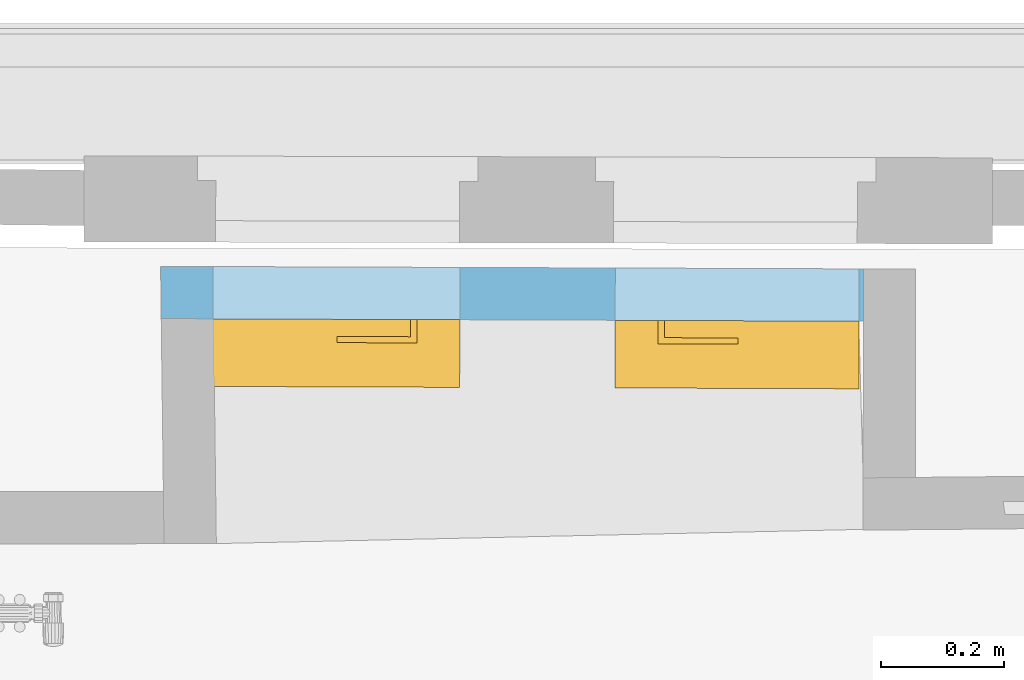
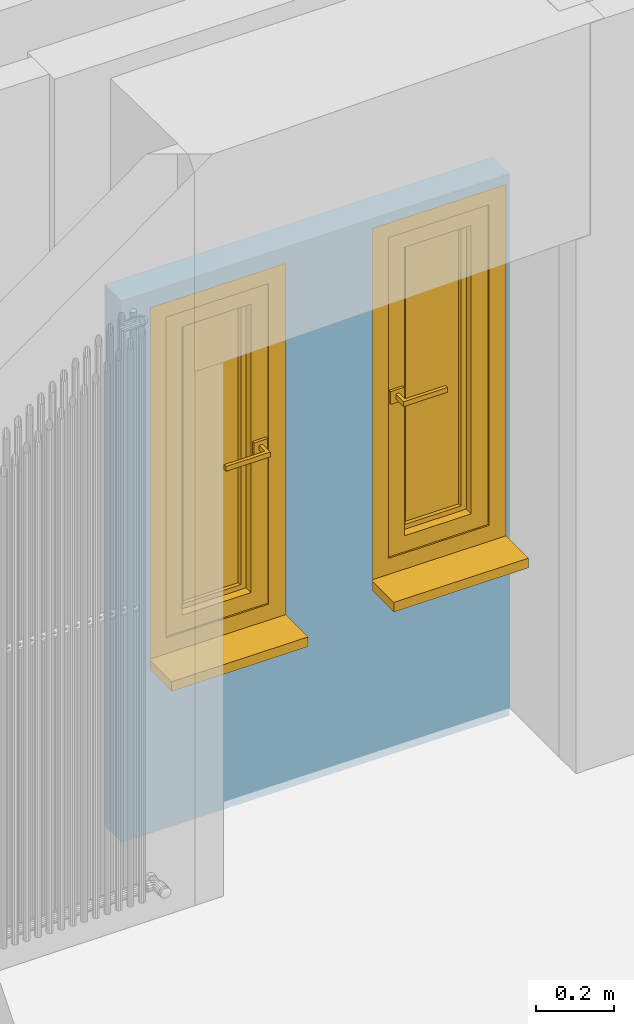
# One storey, part 59 of 72: 2 windows, 2 openings, plus 1 element that does not belong to this part.
"""IFC2X3 building model written with IfcOpenShell, lengths in centimetres."""

import ifcopenshell
import ifcopenshell.guid

model = None  # the IFC model being written
_history = None  # IfcOwnerHistory: only IFC2X3 demands one
_inside = {}  # id of a spatial element -> (the spatial element, [elements in it])
_under = {}  # id of a project, library or spatial element -> (it, [spatial elements below it])
_declared = {}  # id of a project -> (the project, [libraries it declares])
_typed = {}  # id of a type object -> (the type object, [elements of that type])
_made_of = {}  # id of a material, layer set ... -> (it, [elements and type objects made of it])


def new_model(schema):
    """Start an empty IFC model of exactly this schema.

    Asked for "IFC4X3", IfcOpenShell would pick the latest addendum, in which some entities
    have other attributes; the version numbers below select the first issue.
    IFC2X3 requires an IfcOwnerHistory on every rooted entity: one is made here for all.
    """
    global model, _history
    if schema == "IFC4X3":
        model = ifcopenshell.file(schema_version=(4, 3, 0, 0))
    else:
        model = ifcopenshell.file(schema=schema)
    _inside.clear()
    _under.clear()
    _declared.clear()
    _typed.clear()
    _made_of.clear()
    _history = None
    if model.schema == "IFC2X3":
        org = make("IfcOrganization", Name="unknown")
        user = make(
            "IfcPersonAndOrganization",
            ThePerson=make("IfcPerson", FamilyName="unknown"),
            TheOrganization=org,
        )
        app = make(
            "IfcApplication",
            ApplicationDeveloper=org,
            Version="unknown",
            ApplicationFullName="unknown",
            ApplicationIdentifier="unknown",
        )
        _history = make(
            "IfcOwnerHistory",
            OwningUser=user,
            OwningApplication=app,
            ChangeAction="ADDED",
            CreationDate=0,
        )
    return model


def make(cls, **values):
    """One entity of the class cls with the attributes given. An attribute that is None is left unset."""
    return model.create_entity(
        cls, **{name: value for name, value in values.items() if value is not None}
    )


def entity(cls, *values):
    """Any entity or typed value of the class cls, its attributes in the order of the schema. None: left unset."""
    e = model.create_entity(cls)
    for i, value in enumerate(values):
        if value is not None:
            e[i] = value
    return e


def rooted(cls, **values):
    """An entity with a GlobalId (a new one), such as an element, a storey or a relation."""
    return make(cls, GlobalId=ifcopenshell.guid.new(), OwnerHistory=_history, **values)


def si_unit(unit_type, name, prefix=None):
    """IfcSIUnit, for example si_unit("LENGTHUNIT", "METRE", prefix="MILLI")."""
    return make("IfcSIUnit", UnitType=unit_type, Prefix=prefix, Name=name)


def converted_unit(unit_type, name, factor, base, dimensions=None, offset=None):
    """IfcConversionBasedUnit, such as the inch: factor (a typed value) times the base unit."""
    return make(
        "IfcConversionBasedUnit"
        if offset is None
        else "IfcConversionBasedUnitWithOffset",
        ConversionOffset=offset,
        Dimensions=None
        if dimensions is None
        else entity("IfcDimensionalExponents", *dimensions),
        UnitType=unit_type,
        Name=name,
        ConversionFactor=make(
            "IfcMeasureWithUnit", ValueComponent=factor, UnitComponent=base
        ),
    )


def assignment(units):
    """IfcUnitAssignment: the units of a project."""
    return None if units is None else make("IfcUnitAssignment", Units=units)


def point(xyz):
    """IfcCartesianPoint."""
    return None if xyz is None else make("IfcCartesianPoint", Coordinates=xyz)


def direction(xyz):
    """IfcDirection."""
    return None if xyz is None else make("IfcDirection", DirectionRatios=xyz)


def frame(location, z_axis=None, x_axis=None):
    """IfcAxis2Placement3D, a coordinate frame: its origin and axes. An axis left out is left unset."""
    return make(
        "IfcAxis2Placement3D",
        Location=point(location),
        Axis=direction(z_axis),
        RefDirection=direction(x_axis),
    )


def origin():
    """The frame at (0, 0, 0) with its axes left unset."""
    return frame((0.0, 0.0, 0.0))


def origin_with_axes():
    """The frame at (0, 0, 0) with the z axis (0, 0, 1) and the x axis (1, 0, 0) written out."""
    return frame((0.0, 0.0, 0.0), z_axis=(0.0, 0.0, 1.0), x_axis=(1.0, 0.0, 0.0))


def place(relative_to, where):
    """IfcLocalPlacement: puts the frame where relative to a parent placement (None: the world)."""
    return make(
        "IfcLocalPlacement", PlacementRelTo=relative_to, RelativePlacement=where
    )


def context(
    kind, dimensions, precision=None, world=None, true_north=None, identifier=None
):
    """IfcGeometricRepresentationContext, for example the 3D "Model" context."""
    return make(
        "IfcGeometricRepresentationContext",
        ContextIdentifier=identifier,
        ContextType=kind,
        CoordinateSpaceDimension=dimensions,
        Precision=precision,
        WorldCoordinateSystem=world,
        TrueNorth=true_north,
    )


def subcontext(parent, identifier, kind, view, scale=None):
    """IfcGeometricRepresentationSubContext, for example "Body" below "Model"."""
    return make(
        "IfcGeometricRepresentationSubContext",
        ContextIdentifier=identifier,
        ContextType=kind,
        ParentContext=parent,
        TargetScale=scale,
        TargetView=view,
    )


def project(units=None, contexts=None):
    """IfcProject with its units and contexts."""
    return rooted(
        "IfcProject",
        Name="project",
        RepresentationContexts=contexts,
        UnitsInContext=assignment(units),
    )


def spatial(cls, under=None, at=None, **own):
    """A site, building, storey or space (cls), placed at a placement, below another one or the project."""
    s = rooted(cls, ObjectPlacement=at, **own)
    if under is not None:
        _under.setdefault(under.id(), (under, []))[1].append(s)
    return s


def polyline(points):
    """IfcPolyline through the points."""
    return make("IfcPolyline", Points=[point(p) for p in points])


def outline(outer, holes=None, kind="AREA"):
    """IfcArbitraryClosedProfileDef: a profile drawn as a closed curve; with holes, ...WithVoids."""
    if holes is None:
        return make("IfcArbitraryClosedProfileDef", ProfileType=kind, OuterCurve=outer)
    return make(
        "IfcArbitraryProfileDefWithVoids",
        ProfileType=kind,
        OuterCurve=outer,
        InnerCurves=holes,
    )


def extrude(swept, where, along, depth):
    """IfcExtrudedAreaSolid: the profile swept, set in the frame where, extruded along a direction by depth."""
    return make(
        "IfcExtrudedAreaSolid",
        SweptArea=swept,
        Position=where,
        ExtrudedDirection=direction(along),
        Depth=depth,
    )


def faces_of(points, faces, orient=None, outer=None):
    """IfcFace entities. A face is a list of loops; a loop is a list of indices into points, from 0.

    orient and outer hold one flag for each loop. By default every Orientation is true, the
    first loop of a face is its IfcFaceOuterBound and the others are IfcFaceBound.
    """
    made = []
    for i, loops in enumerate(faces):
        bounds = []
        for j, loop in enumerate(loops):
            is_outer = j == 0 if outer is None else outer[i][j]
            bounds.append(
                make(
                    "IfcFaceOuterBound" if is_outer else "IfcFaceBound",
                    Bound=make("IfcPolyLoop", Polygon=[points[k] for k in loop]),
                    Orientation=True if orient is None else orient[i][j],
                )
            )
        made.append(make("IfcFace", Bounds=bounds))
    return made


def faceted_brep(points, faces, orient=None, outer=None, voids=None):
    """IfcFacetedBrep: a solid bounded by flat faces; with voids (closed shells), ...WithVoids."""
    shared = [point(p) for p in points]
    hull = make("IfcClosedShell", CfsFaces=faces_of(shared, faces, orient, outer))
    if voids is None:
        return make("IfcFacetedBrep", Outer=hull)
    return make(
        "IfcFacetedBrepWithVoids",
        Outer=hull,
        Voids=[
            make(cls, CfsFaces=faces_of(shared, fs, o, b)) for cls, fs, o, b in voids
        ],
    )


def shape(context_of_items, identifier, shape_type, items):
    """IfcShapeRepresentation: the items that make up one representation, for example the "Body"."""
    return make(
        "IfcShapeRepresentation",
        ContextOfItems=context_of_items,
        RepresentationIdentifier=identifier,
        RepresentationType=shape_type,
        Items=items,
    )


def material(Name=None, Category=None):
    """IfcMaterial."""
    return make("IfcMaterial", Name=Name, Category=Category)


def material_list(materials):
    """IfcMaterialList."""
    return make("IfcMaterialList", Materials=materials)


def layer(
    of_material, thickness, ventilated=None, Name=None, Category=None, Priority=None
):
    """IfcMaterialLayer: one layer of a wall or slab, of a material (None: an air gap)."""
    return make(
        "IfcMaterialLayer",
        Material=of_material,
        LayerThickness=thickness,
        IsVentilated=ventilated,
        Name=Name,
        Category=Category,
        Priority=Priority,
    )


def layer_set(layers, Name=None):
    """IfcMaterialLayerSet."""
    return make("IfcMaterialLayerSet", MaterialLayers=layers, LayerSetName=Name)


def layer_usage(for_layer_set, set_direction, sense, offset, extent=None):
    """IfcMaterialLayerSetUsage: how a layer set lies in its element."""
    return make(
        "IfcMaterialLayerSetUsage",
        ForLayerSet=for_layer_set,
        LayerSetDirection=set_direction,
        DirectionSense=sense,
        OffsetFromReferenceLine=offset,
        ReferenceExtent=extent,
    )


def made_of(thing, what):
    """Note that an element or type object is made of a material, layer set ...; save() writes the relation."""
    if what is not None:
        _made_of.setdefault(what.id(), (what, []))[1].append(thing)
    return thing


def type_object(cls, material=None, **own):
    """A type object (cls), such as IfcWallType, which elements share."""
    return made_of(rooted(cls, **own), material)


def element(
    cls,
    number,
    at=None,
    inside=None,
    cuts=None,
    type_object=None,
    material=None,
    context=None,
    identifier="Body",
    shape_type=None,
    held_by="IfcProductDefinitionShape",
    body=None,
    shapes=None,
    **own,
):
    """One element of the class cls, such as IfcWall. Its Tag is "e" and its number.

    at: its placement. inside: the storey or other place that contains it. cuts: it is an
    opening in that element (IfcRelVoidsElement). A single representation is given by context,
    identifier, shape_type and body (its items); several are given by shapes. held_by: the class
    of the entity that holds the representations. save() writes the other relations.
    """
    e = rooted(cls, Tag="e%d" % number, ObjectPlacement=at, **own)
    if body is not None:
        shapes = [shape(context, identifier, shape_type, body)]
    if shapes is not None:
        e.Representation = make(held_by, Representations=shapes)
    if inside is not None:
        _inside.setdefault(inside.id(), (inside, []))[1].append(e)
    if cuts is not None:
        rooted(
            "IfcRelVoidsElement", RelatingBuildingElement=cuts, RelatedOpeningElement=e
        )
    if type_object is not None:
        _typed.setdefault(type_object.id(), (type_object, []))[1].append(e)
    return made_of(e, material)


def fill(opening, filler):
    """IfcRelFillsElement: the door or window that sits in an opening."""
    return rooted(
        "IfcRelFillsElement",
        RelatingOpeningElement=opening,
        RelatedBuildingElement=filler,
    )


def aggregate(whole, parts):
    """IfcRelAggregates: a whole, such as a stair, and the parts it consists of."""
    return rooted("IfcRelAggregates", RelatingObject=whole, RelatedObjects=parts)


def save(model, path):
    """Write the relations noted so far, then the file.

    IfcRelAggregates (storeys below a building ...), IfcRelContainedInSpatialStructure (elements
    in a storey), IfcRelDefinesByType, IfcRelAssociatesMaterial and IfcRelDeclares: one each for
    every whole, place, type object, material and project.
    """
    for whole, parts in _under.values():
        aggregate(whole, parts)
    for where, things in _inside.values():
        rooted(
            "IfcRelContainedInSpatialStructure",
            RelatedElements=things,
            RelatingStructure=where,
        )
    for kind, things in _typed.values():
        rooted("IfcRelDefinesByType", RelatedObjects=things, RelatingType=kind)
    for what, things in _made_of.values():
        rooted("IfcRelAssociatesMaterial", RelatedObjects=things, RelatingMaterial=what)
    for by, libraries in _declared.values():
        rooted("IfcRelDeclares", RelatingContext=by, RelatedDefinitions=libraries)
    model.write(path)


model = new_model("IFC2X3")

# Units and contexts
model_context = context("Model", 3, precision=0.0001, world=origin(), true_north=direction((0.225632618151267, 0.974212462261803, 0.0)))
body_context = subcontext(model_context, "Body", "Model", "MODEL_VIEW")
footprint_context = subcontext(model_context, "FootPrint", "Model", "MODEL_VIEW")
profile_context = subcontext(model_context, "Profile", "Model", "MODEL_VIEW")
ifc_project = project(units=[si_unit("LENGTHUNIT", "METRE", prefix="CENTI"), si_unit("AREAUNIT", "SQUARE_METRE", prefix="CENTI"), si_unit("VOLUMEUNIT", "CUBIC_METRE", prefix="CENTI"), converted_unit("PLANEANGLEUNIT", "DEGREE", entity("IfcRatioMeasure", 0.0174532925), si_unit("PLANEANGLEUNIT", "RADIAN"), dimensions=[0, 0, 0, 0, 0, 0, 0])], contexts=[model_context])

# Site, building, storey
site_placement = place(None, origin_with_axes())
site = spatial("IfcSite", under=ifc_project, at=site_placement, Name="Default Site", CompositionType="ELEMENT")
building_placement = place(site_placement, origin_with_axes())
building = spatial("IfcBuilding", under=site, at=building_placement, Name="Default Building", CompositionType="ELEMENT")
storey_placement = place(building_placement, frame((0.0, 0.0, 853.910374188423), z_axis=(0.0, 0.0, 1.0), x_axis=(1.0, 0.0, 0.0)))
storey = spatial("IfcBuildingStorey", under=building, at=storey_placement, Name="Niveau 2", CompositionType="ELEMENT", Elevation=853.910374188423)

# Wall, openings, windows
ifc_material_1 = material(Name="<aucun>")
ifc_layer = layer(ifc_material_1, 8.5)
ifc_layer_set = layer_set([ifc_layer], Name="default")
ifc_layer_usage = layer_usage(ifc_layer_set, "AXIS2", "POSITIVE", -4.25)
wall_type = type_object("IfcWallType", Name="default 85", PredefinedType="NOTDEFINED", material=ifc_layer_set)
wall_placement = place(storey_placement, frame((-445.853192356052, 589.822000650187, 1.4210854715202e-12), z_axis=(0.0, 0.0, 1.0), x_axis=(-0.999993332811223, 0.0036516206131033, 0.0)))
wall = element("IfcWallStandardCase", 1, at=wall_placement, inside=storey, type_object=wall_type, material=ifc_layer_usage, Name="Enveloppe 166814", context=body_context, shape_type="SweptSolid", body=[
    extrude(outline(polyline([(119.723091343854, -4.2500000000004), (119.585544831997, 4.24999999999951), (5.44800041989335, 4.25000000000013), (5.46859012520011, -4.24999999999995), (119.723091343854, -4.2500000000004)])), frame((0.0, 0.0, -5.32907051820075e-13), z_axis=(0.0, 0.0, 1.0), x_axis=(1.0, 0.0, 0.0)), (0.0, 0.0, 1.0), 169.0),
])
opening_1_placement = place(wall_placement, frame((6.15067826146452, 1.13686837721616e-13, 55.9999999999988), z_axis=(0.0, 0.0, 1.0), x_axis=(1.0, -4.00504282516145e-15, 0.0)))
cartesian_point_1 = entity("IfcCartesianPoint", [0.0, 0.0, 110.0])
cartesian_point_2 = entity("IfcCartesianPoint", [39.6512926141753, 4.24999999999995])
opening_1 = element("IfcOpeningElement", 2, at=opening_1_placement, cuts=wall, Name="4294966436_11", ObjectType="Opening", shapes=[
    shape(body_context, "Body", "SweptSolid", [extrude(outline(polyline([(0.0, 110.0), (0.0, -2.99999999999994), (39.6512926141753, -2.99999999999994), (39.6512926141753, 110.0), (0.0, 110.0)])), frame((0.0, 14.25, 0.0), z_axis=(0.0, -1.0, 0.0), x_axis=(1.0, 0.0, 0.0)), (0.0, 0.0, 1.0), 28.5)]),
    shape(profile_context, "Profile", "GeometricCurveSet", [entity("IfcGeometricCurveSet", [entity("IfcPolyline", [cartesian_point_1, entity("IfcCartesianPoint", [0.0, 0.0, 0.0]), entity("IfcCartesianPoint", [39.6512926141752, -8.88178419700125e-14, 0.0]), entity("IfcCartesianPoint", [39.6512926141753, -8.88178419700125e-14, 110.0]), cartesian_point_1])])]),
    shape(footprint_context, "FootPrint", "GeometricCurveSet", [entity("IfcGeometricCurveSet", [entity("IfcPolyline", [cartesian_point_2, entity("IfcCartesianPoint", [0.0, 4.25000000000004]), entity("IfcCartesianPoint", [8.88178419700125e-14, -4.25000000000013]), entity("IfcCartesianPoint", [39.6512926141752, -4.25000000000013]), cartesian_point_2])])]),
])
opening_2_placement = place(wall_placement, frame((71.026558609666, -2.27373675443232e-13, 53.9999999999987), z_axis=(0.0, 0.0, 1.0), x_axis=(1.0, -4.00504282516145e-15, 0.0)))
cartesian_point_3 = entity("IfcCartesianPoint", [0.0, 0.0, 110.0])
cartesian_point_4 = entity("IfcCartesianPoint", [40.1803117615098, 4.25000000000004])
opening_2 = element("IfcOpeningElement", 3, at=opening_2_placement, cuts=wall, Name="4294966435_11", ObjectType="Opening", shapes=[
    shape(body_context, "Body", "SweptSolid", [extrude(outline(polyline([(-8.88178419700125e-14, 110.0), (-8.88178419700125e-14, -2.99999999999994), (40.1803117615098, -2.99999999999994), (40.1803117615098, 110.0), (-8.88178419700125e-14, 110.0)])), frame((0.0, 14.25, 0.0), z_axis=(0.0, -1.0, 0.0), x_axis=(1.0, 0.0, 0.0)), (0.0, 0.0, 1.0), 28.5)]),
    shape(profile_context, "Profile", "GeometricCurveSet", [entity("IfcGeometricCurveSet", [entity("IfcPolyline", [cartesian_point_3, entity("IfcCartesianPoint", [0.0, 0.0, 0.0]), entity("IfcCartesianPoint", [40.1803117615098, 8.88178419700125e-14, 0.0]), entity("IfcCartesianPoint", [40.1803117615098, 8.88178419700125e-14, 110.0]), cartesian_point_3])])]),
    shape(footprint_context, "FootPrint", "GeometricCurveSet", [entity("IfcGeometricCurveSet", [entity("IfcPolyline", [cartesian_point_4, entity("IfcCartesianPoint", [-8.88178419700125e-14, 4.25000000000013]), entity("IfcCartesianPoint", [0.0, -4.25000000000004]), entity("IfcCartesianPoint", [40.1803117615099, -4.25000000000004]), cartesian_point_4])])]),
])
ifc_material_2 = material(Name="Transparent")
ifc_material_3 = material(Name="Jaune 255-255-0")
ifc_material_4 = material(Name="Brèche oniciata")
ifc_material_5 = material(Name="Aluminium satiné")
ifc_material_list = material_list([ifc_material_2, ifc_material_3, ifc_material_4, ifc_material_5])
window_style = type_object("IfcWindowStyle", Name="FN[R] 1VB[1V]", ConstructionType="NOTDEFINED", OperationType="SINGLE_PANEL", ParameterTakesPrecedence=True, Sizeable=False, material=ifc_material_list)
window_1_placement = place(opening_1_placement, frame((-5.6843418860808e-14, -4.25000000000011, 0.0), z_axis=(0.0, 0.0, 1.0), x_axis=(1.0, 0.0, 0.0)))
window_1 = element("IfcWindow", 4, at=window_1_placement, inside=storey, type_object=window_style, material=ifc_material_list, Name="Fenêtre 167913", OverallHeight=110.0, OverallWidth=39.6512926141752, context=body_context, shape_type="Brep", body=[
    faceted_brep([(39.6512854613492, 8.50000158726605, 1.85728072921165e-05), (39.6513150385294, 19.4999930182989, 1.85728072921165e-05), (-9.51580165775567e-06, 19.5000168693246, 1.85728072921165e-05), (8.76453896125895e-06, 8.49997792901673, 1.85728072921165e-05), (5.31339896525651e-06, 1.27982766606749e-05, 1.85728072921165e-05), (39.6512821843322, -1.12268718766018e-05, 1.85728072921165e-05), (39.6512821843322, -1.12268718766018e-05, -2.99995472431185), (5.31339896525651e-06, 1.27982766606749e-05, -2.99995472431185), (8.76453896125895e-06, 8.49997792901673, -2.99995472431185), (-9.51580165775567e-06, 19.5000168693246, -2.99995472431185), (39.6513150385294, 19.4999930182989, -2.99995472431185), (39.6512854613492, 8.50000158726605, -2.99995472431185), (5.31339896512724e-06, -1.12266585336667e-05, 1.85728072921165e-05), (5.31339896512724e-06, -1.12266585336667e-05, -2.99995472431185), (5.31344469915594e-06, 8.49997792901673, 1.85728072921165e-05), (5.31344469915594e-06, 8.49997792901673, -2.99995472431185), (8.76459814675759e-06, 19.5000168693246, 1.85728072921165e-05), (8.76459814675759e-06, 19.5000168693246, -2.99995472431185), (39.6513150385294, 19.5000168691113, 1.85728072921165e-05), (39.6513150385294, 19.5000168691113, -2.99995472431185), (39.6513150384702, 8.50000158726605, 1.85728072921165e-05), (39.6513150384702, 8.50000158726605, -2.99995472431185), (39.6512854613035, -1.12268718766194e-05, 1.85728072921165e-05), (39.6512854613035, -1.12268718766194e-05, -2.99995472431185)], [[[0, 1, 2, 3, 4, 5]], [[6, 7, 8, 9, 10, 11]], [[5, 12, 13, 6]], [[4, 14, 15, 7]], [[3, 16, 17, 8]], [[2, 18, 19, 9]], [[1, 20, 21, 10]], [[0, 22, 23, 11]]]),
    faceted_brep([(4.99999972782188, 7.99999991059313, 104.999995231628), (4.99999972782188, 8.94070595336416e-08, 104.999995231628), (4.99999972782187, 8.94070595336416e-08, 5.00000007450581), (4.99999972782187, 7.99999991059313, 5.00000007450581), (2.58451038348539e-08, 8.94070595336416e-08, 110.000002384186), (2.58451038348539e-08, 8.94070595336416e-08, 1.77635683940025e-13), (4.99999972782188, 8.94070595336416e-08, 5.00000007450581), (2.58451038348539e-08, 7.99999991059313, 110.000002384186), (2.58450927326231e-08, 7.99999991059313, 1.77635683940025e-13), (2.58450927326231e-08, 8.94070595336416e-08, 1.77635683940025e-13), (4.99999972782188, 7.99999991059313, 5.00000007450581), (2.58451038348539e-08, 7.99999991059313, 1.77635683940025e-13), (34.6512928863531, 8.94070595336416e-08, 5.0000000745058), (34.6512928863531, 7.99999991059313, 5.0000000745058), (39.6512925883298, 8.94070553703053e-08, 1.77635683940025e-13), (34.6512928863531, 8.94070564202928e-08, 5.00000007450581), (39.6512925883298, 7.99999991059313, 1.77635683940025e-13), (39.6512925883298, 8.94070595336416e-08, 1.77635683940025e-13), (34.6512928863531, 7.99999991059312, 5.00000007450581), (39.6512925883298, 7.99999991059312, 1.77635683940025e-13), (34.6512928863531, 7.99999991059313, 5.00000007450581), (34.6512928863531, 8.94070595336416e-08, 5.00000007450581), (34.6512928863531, 8.94070595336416e-08, 104.999995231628), (34.6512928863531, 7.99999991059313, 104.999995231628), (39.6512925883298, 8.94070595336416e-08, 110.000002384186), (39.6512925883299, 7.99999991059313, 110.000002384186), (39.6512925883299, 8.94070595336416e-08, 110.000002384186), (39.6512925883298, 7.99999991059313, 110.000002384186), (39.6512925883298, 8.94070595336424e-08, 110.000002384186), (2.58451038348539e-08, 8.94070636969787e-08, 110.000002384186), (4.99999972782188, 8.94070626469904e-08, 104.999995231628)], [[[0, 1, 2, 3]], [[1, 4, 5, 6]], [[4, 7, 8, 9]], [[7, 0, 10, 11]], [[10, 6, 12, 13]], [[6, 5, 14, 15]], [[5, 11, 16, 17]], [[11, 10, 18, 19]], [[20, 21, 22, 23]], [[21, 17, 24, 22]], [[17, 16, 25, 26]], [[16, 20, 23, 27]], [[23, 22, 1, 0]], [[22, 28, 29, 30]], [[24, 27, 7, 4]], [[27, 23, 0, 7]]]),
    faceted_brep([(10.0000001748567, 7.50000001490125, 100.0), (10.0000001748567, 1.49999996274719, 100.0), (10.0000001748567, 1.49999996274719, 10.0000001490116), (10.0000001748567, 7.50000001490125, 10.0000001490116), (9.00000029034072, 0.500000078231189, 100.999999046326), (9.00000029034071, 0.500000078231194, 9.00000035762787), (9.00000038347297, 0.499999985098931, 100.999999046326), (4.99999972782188, 0.499999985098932, 104.999995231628), (4.99999972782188, 0.499999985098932, 5.00000007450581), (9.00000038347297, 0.499999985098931, 9.00000035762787), (4.99999972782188, 0.499999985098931, 104.999995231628), (4.99999972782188, 7.50000001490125, 104.999995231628), (4.99999972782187, 7.50000001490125, 5.00000007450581), (4.99999972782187, 0.499999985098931, 5.00000007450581), (4.99999972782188, 7.50000001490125, 5.00000007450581), (29.6512924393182, 1.49999996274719, 10.0000001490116), (29.6512924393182, 7.50000001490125, 10.0000001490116), (9.00000038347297, 0.500000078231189, 9.00000026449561), (30.651292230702, 0.500000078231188, 9.00000026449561), (34.6512928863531, 0.499999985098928, 5.00000007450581), (30.651292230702, 0.499999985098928, 9.00000035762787), (4.99999972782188, 0.499999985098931, 5.00000007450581), (34.6512928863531, 7.50000001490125, 5.00000007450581), (34.6512928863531, 0.499999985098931, 5.00000007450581), (29.6512924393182, 1.49999996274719, 100.0), (29.6512924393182, 7.50000001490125, 100.0), (30.6512923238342, 0.500000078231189, 9.00000035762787), (30.6512923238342, 0.500000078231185, 100.999999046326), (30.651292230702, 0.499999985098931, 9.00000035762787), (34.6512928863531, 0.499999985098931, 5.00000007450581), (34.6512928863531, 0.499999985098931, 104.999995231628), (30.651292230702, 0.499999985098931, 100.999999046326), (34.6512928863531, 7.50000001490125, 104.999995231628), (34.6512928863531, 0.499999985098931, 104.999995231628), (30.651292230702, 0.500000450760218, 100.999999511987), (9.00000038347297, 0.500000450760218, 100.999999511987), (4.99999972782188, 0.499999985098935, 104.999995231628), (9.00000038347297, 0.499999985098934, 100.999999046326), (29.6512924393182, 7.50000001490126, 100.0), (10.0000001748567, 7.50000001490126, 100.0), (4.99999972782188, 7.50000001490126, 104.999995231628)], [[[0, 1, 2, 3]], [[1, 4, 5, 2]], [[6, 7, 8, 9]], [[10, 11, 12, 13]], [[11, 0, 3, 14]], [[3, 2, 15, 16]], [[2, 17, 18, 15]], [[9, 8, 19, 20]], [[21, 14, 22, 23]], [[14, 3, 16, 22]], [[16, 15, 24, 25]], [[15, 26, 27, 24]], [[28, 29, 30, 31]], [[23, 22, 32, 33]], [[22, 16, 25, 32]], [[25, 24, 1, 0]], [[24, 34, 35, 1]], [[31, 30, 36, 37]], [[33, 32, 11, 10]], [[32, 38, 39, 40]]]),
    faceted_brep([(34.1512918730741, 7.50000001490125, 56.9999992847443), (30.1512927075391, 7.50000001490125, 56.9999992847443), (30.1512927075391, 7.50000001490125, 52.9999971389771), (34.1512918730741, 7.50000001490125, 52.9999971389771), (34.1512918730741, 8.30000014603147, 52.9999971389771), (30.1512927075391, 8.30000014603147, 52.9999971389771), (30.1512927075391, 8.30000014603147, 56.9999992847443), (34.1512918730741, 8.30000014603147, 56.9999992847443)], [[[0, 1, 2, 3]], [[4, 5, 6, 7]], [[3, 2, 5, 4]], [[2, 1, 6, 5]], [[1, 0, 7, 6]], [[0, 3, 4, 7]]]),
    faceted_brep([(32.6512933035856, 8.30000014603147, 55.7500004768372), (31.6512927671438, 8.30000014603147, 55.7500004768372), (31.6512927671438, 8.30000014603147, 54.2500019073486), (32.6512933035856, 8.30000014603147, 54.2500019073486), (32.6512933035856, 12.2999996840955, 54.2500019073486), (31.6512931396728, 11.2999995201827, 54.2500019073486), (31.6512931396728, 11.2999995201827, 55.7500004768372), (32.6512933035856, 12.2999996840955, 55.7500004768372), (31.6512927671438, 11.2999998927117, 54.2500019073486), (31.6512927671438, 11.2999998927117, 55.7500004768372)], [[[0, 1, 2, 3]], [[4, 5, 6, 7]], [[3, 2, 8, 4]], [[2, 1, 9, 8]], [[1, 0, 7, 9]], [[0, 3, 4, 7]]]),
    faceted_brep([(32.6512933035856, 12.2999996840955, 55.7500004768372), (31.6512931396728, 11.2999995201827, 55.7500004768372), (31.6512931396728, 11.2999995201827, 54.2500019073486), (32.6512933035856, 12.2999996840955, 54.2500019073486), (19.6512925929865, 12.2999996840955, 54.2500019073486), (19.6512925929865, 11.2999998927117, 54.2500019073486), (19.6512925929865, 11.2999998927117, 55.7500004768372), (19.6512925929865, 12.2999996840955, 55.7500004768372), (31.6512927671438, 11.2999998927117, 54.2500019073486), (31.6512927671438, 11.2999998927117, 55.7500004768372)], [[[0, 1, 2, 3]], [[4, 5, 6, 7]], [[3, 8, 5, 4]], [[8, 9, 6, 5]], [[9, 0, 7, 6]], [[0, 3, 4, 7]]]),
    faceted_brep([(11.5000002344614, 4.99999997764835, 98.5000014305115), (11.9999999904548, 4.50000022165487, 98.0000019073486), (11.9999999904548, 4.50000022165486, 11.9999997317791), (11.5000002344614, 4.99999997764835, 11.5000002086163), (11.9999997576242, 4.49999998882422, 98.0000019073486), (11.9999997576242, 3.50000001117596, 98.0000019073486), (11.9999997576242, 3.50000001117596, 11.9999997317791), (11.9999997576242, 4.49999998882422, 11.9999997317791), (11.5000000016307, 3.00000025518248, 98.5000014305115), (11.5000000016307, 3.00000025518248, 11.5000002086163), (11.9999997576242, 3.50000001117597, 11.9999997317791), (11.5000002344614, 3.00000002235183, 98.5000014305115), (10.0000001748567, 3.00000002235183, 100.0), (10.0000001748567, 3.00000002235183, 10.0000001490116), (11.5000002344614, 3.00000002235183, 11.5000002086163), (10.0000001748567, 4.99999997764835, 100.0), (10.0000001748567, 4.99999997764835, 10.0000001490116), (11.9999997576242, 4.50000022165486, 11.9999999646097), (27.6512928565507, 4.50000022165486, 11.9999999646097), (28.1512923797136, 4.99999997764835, 11.5000002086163), (27.6512928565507, 3.50000001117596, 11.9999997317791), (27.6512928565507, 4.49999998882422, 11.9999997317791), (11.5000002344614, 3.00000025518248, 11.4999999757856), (28.1512923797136, 3.00000025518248, 11.4999999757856), (29.6512924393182, 3.00000002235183, 10.0000001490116), (28.1512923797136, 3.00000002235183, 11.5000002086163), (29.6512924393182, 4.99999997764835, 10.0000001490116), (27.6512926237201, 4.50000022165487, 11.9999997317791), (27.6512926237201, 4.50000022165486, 98.0000019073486), (28.1512923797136, 4.99999997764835, 98.5000014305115), (27.6512928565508, 3.50000001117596, 98.0000019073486), (27.6512928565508, 4.49999998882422, 98.0000019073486), (28.1512926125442, 3.00000025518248, 11.5000002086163), (28.1512926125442, 3.00000025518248, 98.5000014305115), (27.6512928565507, 3.50000001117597, 98.0000019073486), (29.6512924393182, 3.00000002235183, 100.0), (28.1512923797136, 3.00000002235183, 98.5000014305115), (29.6512924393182, 4.99999997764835, 100.0), (27.6512928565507, 4.50000022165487, 98.000001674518), (11.9999997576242, 4.50000022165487, 98.000001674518), (11.5000002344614, 4.99999997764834, 98.5000014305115), (27.6512928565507, 4.49999998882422, 98.0000019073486), (27.6512928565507, 3.50000001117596, 98.0000019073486), (28.1512923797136, 3.00000025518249, 98.5000016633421), (11.5000002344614, 3.00000025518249, 98.5000016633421), (10.0000001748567, 3.00000002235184, 100.0), (11.5000002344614, 3.00000002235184, 98.5000014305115)], [[[0, 1, 2, 3]], [[4, 5, 6, 7]], [[5, 8, 9, 10]], [[11, 12, 13, 14]], [[12, 15, 16, 13]], [[15, 0, 3, 16]], [[3, 17, 18, 19]], [[7, 6, 20, 21]], [[6, 22, 23, 20]], [[14, 13, 24, 25]], [[13, 16, 26, 24]], [[16, 3, 19, 26]], [[19, 27, 28, 29]], [[21, 20, 30, 31]], [[20, 32, 33, 34]], [[25, 24, 35, 36]], [[24, 26, 37, 35]], [[26, 19, 29, 37]], [[29, 38, 39, 40]], [[41, 42, 5, 4]], [[42, 43, 44, 5]], [[36, 35, 45, 46]], [[35, 37, 15, 12]], [[37, 29, 0, 15]]]),
    faceted_brep([(27.6512928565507, 4.49999998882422, 98.0000019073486), (27.6512928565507, 4.49999998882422, 11.9999997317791), (11.9999997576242, 4.49999998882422, 11.9999997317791), (11.9999997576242, 4.49999998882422, 98.0000019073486), (11.9999997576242, 3.50000001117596, 98.0000019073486), (11.9999997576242, 3.50000001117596, 11.9999997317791), (27.6512928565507, 3.50000001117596, 11.9999997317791), (27.6512928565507, 3.50000001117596, 98.0000019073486), (27.6512928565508, 4.49999998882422, 98.0000019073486), (27.6512928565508, 3.50000001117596, 98.0000019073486)], [[[0, 1, 2, 3]], [[4, 5, 6, 7]], [[3, 2, 5, 4]], [[2, 1, 6, 5]], [[1, 8, 9, 6]], [[0, 3, 4, 7]]]),
])
fill(opening_1, window_1)
window_2_placement = place(opening_2_placement, frame((0.0, -4.25000000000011, 0.0), z_axis=(0.0, 0.0, 1.0), x_axis=(1.0, 0.0, 0.0)))
window_2 = element("IfcWindow", 5, at=window_2_placement, inside=storey, type_object=window_style, material=ifc_material_list, Name="Fenêtre 167109", OverallHeight=110.0, OverallWidth=40.1803117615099, context=body_context, shape_type="Brep", body=[
    faceted_brep([(40.1803040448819, 8.49998773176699, -2.72035597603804e-05), (40.180333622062, 19.4999791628, -2.72035597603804e-05), (2.48647058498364e-06, 19.4999786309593, -2.72035597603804e-05), (2.0592688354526e-05, 8.49998737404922, -2.72035597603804e-05), (1.71415484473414e-05, 2.22433092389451e-05, -2.72035597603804e-05), (40.180300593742, 2.26010270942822e-05, -2.72035597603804e-05), (40.180300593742, 2.26010270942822e-05, -3.0000005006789), (1.71415484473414e-05, 2.22433092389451e-05, -3.0000005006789), (2.0592688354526e-05, 8.49998737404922, -3.0000005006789), (2.48647058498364e-06, 19.4999786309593, -3.0000005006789), (40.180333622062, 19.4999791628, -3.0000005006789), (40.1803040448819, 8.49998773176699, -3.0000005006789), (1.71415484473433e-05, 2.26012432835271e-05, -2.72035597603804e-05), (1.71415484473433e-05, 2.26012432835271e-05, -3.0000005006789), (1.71415941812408e-05, 8.49998737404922, -2.72035597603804e-05), (1.71415941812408e-05, 8.49998737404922, -3.0000005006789), (2.05927475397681e-05, 19.4999786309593, -2.72035597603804e-05), (2.05927475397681e-05, 19.4999786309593, -3.0000005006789), (40.180333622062, 19.4999786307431, -2.72035597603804e-05), (40.180333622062, 19.4999786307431, -3.0000005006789), (40.1803336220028, 8.49998773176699, -2.72035597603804e-05), (40.1803336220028, 8.49998773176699, -3.0000005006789), (40.1803040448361, 2.26010270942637e-05, -2.72035597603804e-05), (40.1803040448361, 2.26010270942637e-05, -3.0000005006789)], [[[0, 1, 2, 3, 4, 5]], [[6, 7, 8, 9, 10, 11]], [[5, 12, 13, 6]], [[4, 14, 15, 7]], [[3, 16, 17, 8]], [[2, 18, 19, 9]], [[1, 20, 21, 10]], [[0, 22, 23, 11]]]),
    faceted_brep([(35.1803114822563, 8.94069707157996e-08, 104.999995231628), (35.1803114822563, 7.99999991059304, 104.999995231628), (35.1803114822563, 7.99999991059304, 5.00000007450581), (35.1803114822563, 8.94069707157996e-08, 5.00000007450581), (40.1803111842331, 7.99999991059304, 110.000002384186), (40.1803111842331, 7.99999991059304, 1.88737914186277e-13), (40.1803111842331, 8.94069707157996e-08, 110.000002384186), (40.1803111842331, 8.94069707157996e-08, 1.88737914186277e-13), (5.0000002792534, 7.99999991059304, 5.0000000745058), (5.0000002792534, 8.94069707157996e-08, 5.0000000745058), (5.77276626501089e-07, 7.99999991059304, 1.88737914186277e-13), (5.0000002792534, 7.99999991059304, 5.00000007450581), (5.77276626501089e-07, 8.94069707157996e-08, 1.88737914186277e-13), (5.0000002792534, 8.94069707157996e-08, 5.00000007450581), (5.00000027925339, 7.99999991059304, 104.999995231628), (5.00000027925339, 8.94069707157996e-08, 104.999995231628), (5.77276626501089e-07, 7.99999991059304, 110.000002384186), (5.0000002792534, 7.99999991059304, 104.999995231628), (5.77276626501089e-07, 8.94069707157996e-08, 110.000002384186), (5.0000002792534, 8.94069707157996e-08, 104.999995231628)], [[[0, 1, 2, 3]], [[1, 4, 5, 2]], [[4, 6, 7, 5]], [[6, 0, 3, 7]], [[3, 2, 8, 9]], [[2, 5, 10, 11]], [[5, 7, 12, 10]], [[7, 3, 13, 12]], [[13, 11, 14, 15]], [[11, 10, 16, 17]], [[10, 12, 18, 16]], [[12, 13, 19, 18]], [[19, 17, 1, 0]], [[17, 16, 4, 1]], [[16, 18, 6, 4]], [[18, 19, 0, 6]]]),
    faceted_brep([(31.1803115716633, 0.499999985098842, 100.999999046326), (30.1803116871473, 1.49999986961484, 100.0), (30.1803116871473, 1.49999986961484, 10.0000001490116), (31.1803115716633, 0.499999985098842, 9.00000035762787), (30.1803117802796, 1.4999999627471, 100.0), (30.1803117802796, 7.50000001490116, 100.0), (30.1803117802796, 7.50000001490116, 10.0000001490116), (30.1803117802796, 1.4999999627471, 10.0000001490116), (35.1803114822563, 7.50000001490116, 104.999995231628), (35.1803114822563, 7.50000001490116, 5.00000007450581), (35.1803114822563, 0.499999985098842, 104.999995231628), (35.1803114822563, 0.499999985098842, 5.00000007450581), (30.1803117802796, 1.49999986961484, 10.0000002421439), (9.99999998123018, 1.49999986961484, 10.0000002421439), (9.00000018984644, 0.499999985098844, 9.00000035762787), (9.99999998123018, 7.50000001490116, 10.0000001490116), (9.99999998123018, 1.4999999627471, 10.0000001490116), (5.0000002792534, 7.50000001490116, 5.00000007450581), (5.0000002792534, 0.499999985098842, 5.00000007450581), (9.00000018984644, 0.499999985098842, 9.00000035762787), (10.0000000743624, 1.49999986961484, 10.0000001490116), (10.0000000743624, 1.49999986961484, 100.0), (9.00000018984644, 0.49999998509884, 100.999999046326), (9.99999998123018, 7.50000001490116, 100.0), (9.99999998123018, 1.4999999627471, 100.0), (5.0000002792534, 7.50000001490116, 104.999995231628), (5.0000002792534, 0.499999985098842, 104.999995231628), (9.00000018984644, 0.499999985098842, 100.999999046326), (9.99999998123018, 1.49999949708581, 99.9999995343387), (30.1803117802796, 1.49999949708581, 99.9999995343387)], [[[0, 1, 2, 3]], [[4, 5, 6, 7]], [[5, 8, 9, 6]], [[8, 10, 11, 9]], [[10, 0, 3, 11]], [[3, 12, 13, 14]], [[7, 6, 15, 16]], [[6, 9, 17, 15]], [[9, 11, 18, 17]], [[11, 3, 19, 18]], [[19, 20, 21, 22]], [[16, 15, 23, 24]], [[15, 17, 25, 23]], [[17, 18, 26, 25]], [[18, 19, 27, 26]], [[27, 28, 29, 0]], [[24, 23, 5, 4]], [[23, 25, 8, 5]], [[25, 26, 10, 8]], [[26, 27, 0, 10]]]),
    faceted_brep([(5.49999980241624, 7.50000001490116, 52.9999971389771), (9.49999971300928, 7.50000001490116, 52.9999971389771), (9.49999971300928, 7.50000001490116, 56.9999992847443), (5.49999980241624, 7.50000001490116, 56.9999992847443), (5.49999980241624, 8.30000014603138, 56.9999992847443), (9.49999971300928, 8.30000014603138, 56.9999992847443), (9.49999971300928, 8.30000014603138, 52.9999971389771), (5.49999980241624, 8.30000014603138, 52.9999971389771)], [[[0, 1, 2, 3]], [[4, 5, 6, 7]], [[3, 2, 5, 4]], [[2, 1, 6, 5]], [[1, 0, 7, 6]], [[0, 3, 4, 7]]]),
    faceted_brep([(6.99999986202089, 8.30000014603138, 54.2500019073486), (7.99999965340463, 8.30000014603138, 54.2500019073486), (7.99999965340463, 8.30000014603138, 55.7500004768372), (6.99999986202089, 8.30000014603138, 55.7500004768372), (6.99999986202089, 12.2999996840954, 55.7500004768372), (7.99999965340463, 11.2999998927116, 55.7500004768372), (7.99999965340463, 11.2999998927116, 54.2500019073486), (6.99999986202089, 12.2999996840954, 54.2500019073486)], [[[0, 1, 2, 3]], [[4, 5, 6, 7]], [[3, 2, 5, 4]], [[2, 1, 6, 5]], [[1, 0, 7, 6]], [[0, 3, 4, 7]]]),
    faceted_brep([(6.99999986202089, 12.2999996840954, 54.2500019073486), (7.99999965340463, 11.2999998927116, 54.2500019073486), (7.99999965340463, 11.2999998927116, 55.7500004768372), (6.99999986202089, 12.2999996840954, 55.7500004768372), (20.000000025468, 12.2999996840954, 55.7500004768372), (20.000000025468, 11.2999998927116, 55.7500004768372), (20.000000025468, 11.2999998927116, 54.2500019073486), (20.000000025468, 12.2999996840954, 54.2500019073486)], [[[0, 1, 2, 3]], [[4, 5, 6, 7]], [[3, 2, 5, 4]], [[2, 1, 6, 5]], [[1, 0, 7, 6]], [[0, 3, 4, 7]]]),
    faceted_brep([(28.6803117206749, 3.00000002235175, 98.5000014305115), (28.1803115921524, 3.50000015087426, 98.0000019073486), (28.1803115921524, 3.50000015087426, 11.9999997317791), (28.6803117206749, 3.00000002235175, 11.5000002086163), (28.180311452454, 3.50000001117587, 98.0000019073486), (28.180311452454, 4.49999998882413, 98.0000019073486), (28.180311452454, 4.49999998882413, 11.9999997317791), (28.180311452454, 3.50000001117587, 11.9999997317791), (28.6803115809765, 5.00000011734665, 98.5000014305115), (28.6803115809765, 5.00000011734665, 11.5000002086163), (28.6803117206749, 4.99999997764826, 98.5000014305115), (30.1803117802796, 4.99999997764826, 100.0), (30.1803117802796, 4.99999997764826, 10.0000001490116), (28.6803117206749, 4.99999997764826, 11.5000002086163), (30.1803117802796, 3.00000002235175, 100.0), (30.1803117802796, 3.00000002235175, 10.0000001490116), (28.180311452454, 3.49999977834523, 11.9999999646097), (12.0000003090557, 3.49999977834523, 11.9999999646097), (11.5000000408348, 3.00000002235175, 11.5000002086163), (12.0000003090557, 4.49999998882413, 11.9999997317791), (12.0000003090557, 3.50000001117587, 11.9999997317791), (28.6803117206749, 4.99999974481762, 11.4999999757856), (11.5000000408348, 4.99999974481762, 11.4999999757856), (9.99999998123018, 4.99999997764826, 10.0000001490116), (11.5000000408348, 4.99999997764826, 11.5000002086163), (9.99999998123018, 3.00000002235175, 10.0000001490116), (12.0000001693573, 3.50000015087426, 11.9999997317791), (12.0000001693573, 3.50000015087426, 98.0000019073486), (11.5000000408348, 3.00000002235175, 98.5000014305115), (12.0000003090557, 4.49999998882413, 98.0000019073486), (12.0000003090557, 3.50000001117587, 98.0000019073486), (11.5000001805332, 5.00000011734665, 11.5000002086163), (11.5000001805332, 5.00000011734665, 98.5000014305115), (12.0000003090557, 4.49999998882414, 98.0000019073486), (9.99999998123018, 4.99999997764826, 100.0), (11.5000000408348, 4.99999997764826, 98.5000014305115), (9.99999998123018, 3.00000002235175, 100.0), (12.0000003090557, 3.49999977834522, 98.000001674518), (28.180311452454, 3.49999977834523, 98.000001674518), (11.5000000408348, 4.99999974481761, 98.5000016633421), (28.6803117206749, 4.99999974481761, 98.5000016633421)], [[[0, 1, 2, 3]], [[4, 5, 6, 7]], [[5, 8, 9, 6]], [[10, 11, 12, 13]], [[11, 14, 15, 12]], [[14, 0, 3, 15]], [[3, 16, 17, 18]], [[7, 6, 19, 20]], [[6, 21, 22, 19]], [[13, 12, 23, 24]], [[12, 15, 25, 23]], [[15, 3, 18, 25]], [[18, 26, 27, 28]], [[20, 19, 29, 30]], [[19, 31, 32, 33]], [[24, 23, 34, 35]], [[23, 25, 36, 34]], [[25, 18, 28, 36]], [[28, 37, 38, 0]], [[30, 29, 5, 4]], [[29, 39, 40, 5]], [[35, 34, 11, 10]], [[34, 36, 14, 11]], [[36, 28, 0, 14]]]),
    faceted_brep([(12.0000003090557, 3.50000001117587, 98.0000019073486), (12.0000003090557, 3.50000001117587, 11.9999997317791), (28.180311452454, 3.50000001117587, 11.9999997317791), (28.180311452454, 3.50000001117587, 98.0000019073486), (28.180311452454, 4.49999998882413, 98.0000019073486), (28.180311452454, 4.49999998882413, 11.9999997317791), (12.0000003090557, 4.49999998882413, 11.9999997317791), (12.0000003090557, 4.49999998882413, 98.0000019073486)], [[[0, 1, 2, 3]], [[4, 5, 6, 7]], [[3, 2, 5, 4]], [[2, 1, 6, 5]], [[1, 0, 7, 6]], [[0, 3, 4, 7]]]),
])
fill(opening_2, window_2)

save(model, "model.ifc")
